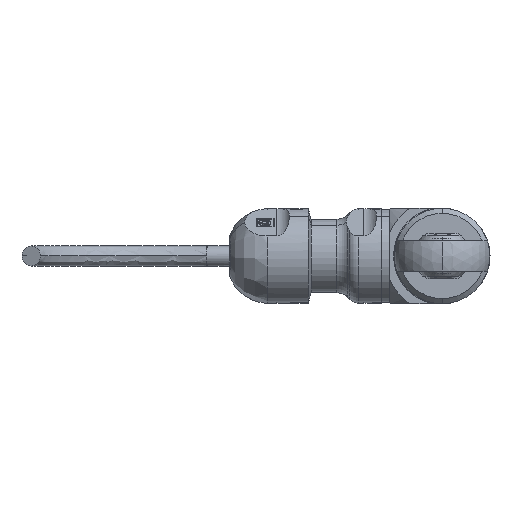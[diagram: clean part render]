
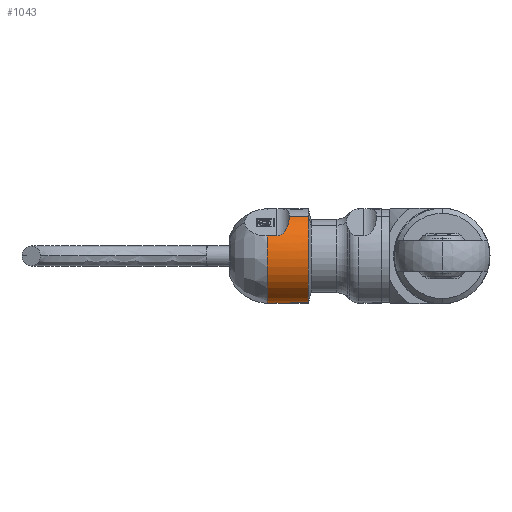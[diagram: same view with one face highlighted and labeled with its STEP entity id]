
A CAD part, left-side view. The second image highlights one B-rep face of the part: STEP entity #1043.
In plain terms, the highlighted cylindrical face has radius 9.4 mm (diameter 18.8 mm), a partial arc.
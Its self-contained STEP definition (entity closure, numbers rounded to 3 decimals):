
#33 = VECTOR ( 'NONE', #1122, 1000. ) ;
#34 = B_SPLINE_CURVE_WITH_KNOTS ( 'NONE', 3,
 ( #5633, #6945, #4064, #4026, #6323, #1201, #3525, #5745, #619, #5783, #656, #2950, #4845, #697, #4283, #5417 ),
 .UNSPECIFIED., .F., .F.,
 ( 4, 2, 2, 2, 2, 2, 2, 4 ),
 ( 0., 0.125, 0.25, 0.375, 0.5, 0.625, 0.75, 1. ),
 .UNSPECIFIED. ) ;
#118 = CARTESIAN_POINT ( 'NONE',  ( -73.945, 34.869, -9.48 ) ) ;
#212 = VERTEX_POINT ( 'NONE', #2971 ) ;
#395 = DIRECTION ( 'NONE',  ( 0., 1., 0. ) ) ;
#619 = CARTESIAN_POINT ( 'NONE',  ( -78.569, 30.983, 5.58 ) ) ;
#655 = VERTEX_POINT ( 'NONE', #3322 ) ;
#656 = CARTESIAN_POINT ( 'NONE',  ( -78.096, 30.759, 6.17 ) ) ;
#697 = CARTESIAN_POINT ( 'NONE',  ( -76.991, 30.526, 7.262 ) ) ;
#704 = CARTESIAN_POINT ( 'NONE',  ( -67.73, 30.651, -8.829 ) ) ;
#757 = CARTESIAN_POINT ( 'NONE',  ( -79.766, 34.869, -5.727 ) ) ;
#978 = CARTESIAN_POINT ( 'NONE',  ( -70.756, 33.038, -9.397 ) ) ;
#1010 = VECTOR ( 'NONE', #7064, 1000. ) ;
#1043 = ADVANCED_FACE ( 'NONE', ( #1368 ), #7031, .T. ) ;
#1122 = DIRECTION ( 'NONE',  ( 0., 1., 0. ) ) ;
#1156 = CARTESIAN_POINT ( 'NONE',  ( -65.859, 26.7, -7.869 ) ) ;
#1201 = CARTESIAN_POINT ( 'NONE',  ( -79.097, 31.478, 4.779 ) ) ;
#1320 = CARTESIAN_POINT ( 'NONE',  ( -70.276, 31.837, -9.374 ) ) ;
#1368 = FACE_OUTER_BOUND ( 'NONE', #6940, .T. ) ;
#1401 = ORIENTED_EDGE ( 'NONE', *, *, #5300, .F. ) ;
#1524 = ORIENTED_EDGE ( 'NONE', *, *, #5814, .T. ) ;
#1631 = CARTESIAN_POINT ( 'NONE',  ( -71., 26.7, 0. ) ) ;
#1845 = LINE ( 'NONE', #5383, #1010 ) ;
#1870 = CARTESIAN_POINT ( 'NONE',  ( -79.508, 34.869, 3.998 ) ) ;
#2355 = AXIS2_PLACEMENT_3D ( 'NONE', #1631, #395, #3234 ) ;
#2405 = CARTESIAN_POINT ( 'NONE',  ( -81.043, 34.869, -2.333 ) ) ;
#2566 = CARTESIAN_POINT ( 'NONE',  ( -68.957, 30.993, -9.179 ) ) ;
#2756 = ORIENTED_EDGE ( 'NONE', *, *, #6143, .F. ) ;
#2774 = CARTESIAN_POINT ( 'NONE',  ( -79.508, 34.869, 3.998 ) ) ;
#2950 = CARTESIAN_POINT ( 'NONE',  ( -77.751, 30.657, 6.547 ) ) ;
#2971 = CARTESIAN_POINT ( 'NONE',  ( -70.756, 34.869, -9.397 ) ) ;
#2996 = CARTESIAN_POINT ( 'NONE',  ( -70.688, 32.512, -9.396 ) ) ;
#3072 = CARTESIAN_POINT ( 'NONE',  ( -65.859, 30.5, -7.869 ) ) ;
#3149 = CARTESIAN_POINT ( 'NONE',  ( -66.287, 30.5, -8.15 ) ) ;
#3178 = DIRECTION ( 'NONE',  ( 0., 1., 0. ) ) ;
#3234 = DIRECTION ( 'NONE',  ( 0.547, 0., -0.837 ) ) ;
#3239 = VERTEX_POINT ( 'NONE', #4199 ) ;
#3307 = VERTEX_POINT ( 'NONE', #7120 ) ;
#3322 = CARTESIAN_POINT ( 'NONE',  ( -76.141, 30.5, 7.869 ) ) ;
#3418 = ORIENTED_EDGE ( 'NONE', *, *, #3916, .T. ) ;
#3525 = CARTESIAN_POINT ( 'NONE',  ( -78.98, 31.33, 4.974 ) ) ;
#3566 = CARTESIAN_POINT ( 'NONE',  ( -69.194, 31.09, -9.228 ) ) ;
#3599 = CARTESIAN_POINT ( 'NONE',  ( -70.756, 32.769, -9.397 ) ) ;
#3706 = DIRECTION ( 'NONE',  ( 0., 1., 0. ) ) ;
#3740 = ORIENTED_EDGE ( 'NONE', *, *, #4146, .T. ) ;
#3777 = VECTOR ( 'NONE', #3178, 1000. ) ;
#3916 = EDGE_CURVE ( 'NONE', #6810, #655, #4590, .T. ) ;
#4026 = CARTESIAN_POINT ( 'NONE',  ( -79.371, 32.04, 4.279 ) ) ;
#4064 = CARTESIAN_POINT ( 'NONE',  ( -79.478, 32.506, 4.062 ) ) ;
#4109 = CARTESIAN_POINT ( 'NONE',  ( -70.756, 33.038, -9.397 ) ) ;
#4146 = EDGE_CURVE ( 'NONE', #6148, #3307, #6807, .T. ) ;
#4181 = CARTESIAN_POINT ( 'NONE',  ( -79.507, 33.038, 3.998 ) ) ;
#4199 = CARTESIAN_POINT ( 'NONE',  ( -65.859, 30.5, -7.869 ) ) ;
#4200 = CARTESIAN_POINT ( 'NONE',  ( -70.756, 34.869, -9.397 ) ) ;
#4203 = B_SPLINE_CURVE_WITH_KNOTS ( 'NONE', 3,
 ( #3072, #3149, #5423, #704, #5350, #2566, #3566, #4854, #4254, #1320, #6484, #2996, #3599, #4109 ),
 .UNSPECIFIED., .F., .F.,
 ( 4, 2, 2, 2, 2, 2, 4 ),
 ( 0., 0.25, 0.5, 0.625, 0.75, 0.875, 1. ),
 .UNSPECIFIED. ) ;
#4221 = VECTOR ( 'NONE', #7341, 1000. ) ;
#4254 = CARTESIAN_POINT ( 'NONE',  ( -69.882, 31.483, -9.336 ) ) ;
#4283 = CARTESIAN_POINT ( 'NONE',  ( -76.573, 30.5, 7.587 ) ) ;
#4351 = LINE ( 'NONE', #4387, #3777 ) ;
#4387 = CARTESIAN_POINT ( 'NONE',  ( -65.859, 42.4, -7.869 ) ) ;
#4508 = B_SPLINE_CURVE_WITH_KNOTS ( 'NONE', 6,
 ( #4200, #118, #4729, #757, #2405, #7046, #1870 ),
 .UNSPECIFIED., .F., .F.,
 ( 7, 7 ),
 ( 0., 1. ),
 .UNSPECIFIED. ) ;
#4520 = CARTESIAN_POINT ( 'NONE',  ( -76.141, 26.7, 7.869 ) ) ;
#4590 = LINE ( 'NONE', #5080, #33 ) ;
#4683 = EDGE_CURVE ( 'NONE', #3239, #6623, #4203, .T. ) ;
#4729 = CARTESIAN_POINT ( 'NONE',  ( -77.171, 34.869, -8.26 ) ) ;
#4845 = CARTESIAN_POINT ( 'NONE',  ( -77.567, 30.617, 6.731 ) ) ;
#4854 = CARTESIAN_POINT ( 'NONE',  ( -69.658, 31.335, -9.307 ) ) ;
#5080 = CARTESIAN_POINT ( 'NONE',  ( -76.141, 42.4, 7.869 ) ) ;
#5300 = EDGE_CURVE ( 'NONE', #212, #3307, #4508, .T. ) ;
#5350 = CARTESIAN_POINT ( 'NONE',  ( -68.232, 30.75, -8.997 ) ) ;
#5383 = CARTESIAN_POINT ( 'NONE',  ( -70.756, 33.038, -9.397 ) ) ;
#5417 = CARTESIAN_POINT ( 'NONE',  ( -76.141, 30.5, 7.869 ) ) ;
#5423 = CARTESIAN_POINT ( 'NONE',  ( -66.758, 30.526, -8.405 ) ) ;
#5633 = CARTESIAN_POINT ( 'NONE',  ( -79.507, 33.038, 3.998 ) ) ;
#5745 = CARTESIAN_POINT ( 'NONE',  ( -78.716, 31.082, 5.374 ) ) ;
#5779 = ORIENTED_EDGE ( 'NONE', *, *, #4683, .F. ) ;
#5783 = CARTESIAN_POINT ( 'NONE',  ( -78.258, 30.821, 5.979 ) ) ;
#5790 = VERTEX_POINT ( 'NONE', #1156 ) ;
#5814 = EDGE_CURVE ( 'NONE', #5790, #6810, #6685, .T. ) ;
#5976 = DIRECTION ( 'NONE',  ( -0.547, 0., 0.837 ) ) ;
#6016 = CARTESIAN_POINT ( 'NONE',  ( -71., 42.4, 0. ) ) ;
#6143 = EDGE_CURVE ( 'NONE', #6148, #655, #34, .T. ) ;
#6148 = VERTEX_POINT ( 'NONE', #4181 ) ;
#6228 = EDGE_CURVE ( 'NONE', #5790, #3239, #4351, .T. ) ;
#6323 = CARTESIAN_POINT ( 'NONE',  ( -79.292, 31.832, 4.432 ) ) ;
#6371 = ORIENTED_EDGE ( 'NONE', *, *, #6228, .F. ) ;
#6484 = CARTESIAN_POINT ( 'NONE',  ( -70.447, 32.045, -9.385 ) ) ;
#6623 = VERTEX_POINT ( 'NONE', #978 ) ;
#6685 = CIRCLE ( 'NONE', #2355, 9.4 ) ;
#6807 = LINE ( 'NONE', #2774, #4221 ) ;
#6810 = VERTEX_POINT ( 'NONE', #4520 ) ;
#6838 = EDGE_CURVE ( 'NONE', #212, #6623, #1845, .T. ) ;
#6940 = EDGE_LOOP ( 'NONE', ( #6371, #1524, #3418, #2756, #3740, #1401, #7112, #5779 ) ) ;
#6945 = CARTESIAN_POINT ( 'NONE',  ( -79.507, 32.764, 3.998 ) ) ;
#7031 = CYLINDRICAL_SURFACE ( 'NONE', #7041, 9.4 ) ;
#7041 = AXIS2_PLACEMENT_3D ( 'NONE', #6016, #3706, #5976 ) ;
#7046 = CARTESIAN_POINT ( 'NONE',  ( -80.864, 34.869, 1.111 ) ) ;
#7064 = DIRECTION ( 'NONE',  ( 0., -1., 0. ) ) ;
#7112 = ORIENTED_EDGE ( 'NONE', *, *, #6838, .T. ) ;
#7120 = CARTESIAN_POINT ( 'NONE',  ( -79.508, 34.869, 3.998 ) ) ;
#7341 = DIRECTION ( 'NONE',  ( 0., 1., 0. ) ) ;
